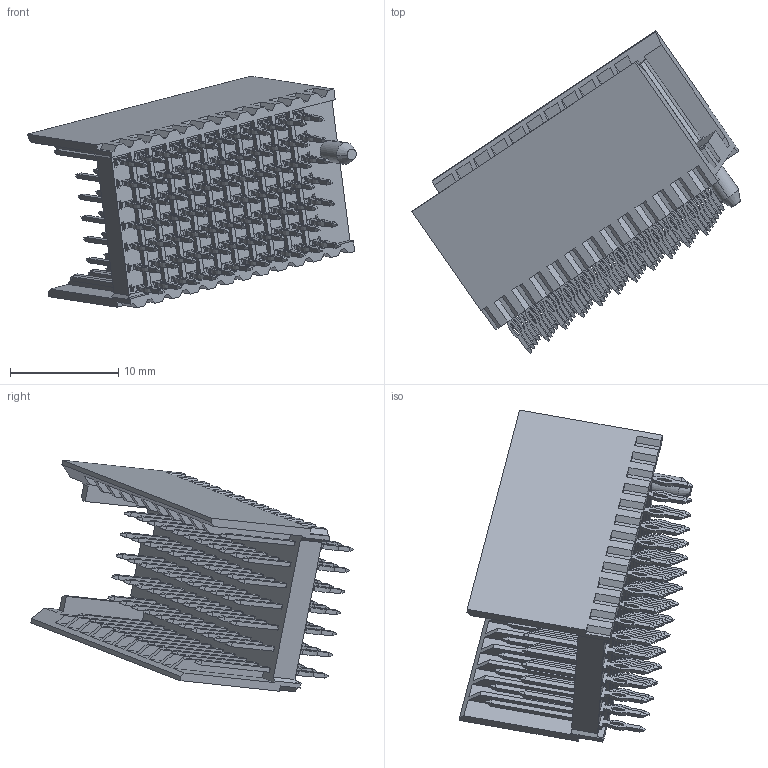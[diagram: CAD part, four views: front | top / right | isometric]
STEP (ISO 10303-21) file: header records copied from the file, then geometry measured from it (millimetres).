
FILE_DESCRIPTION (( 'STEP AP214' ), '1' );
FILE_NAME ('9111-71CL77CC10U.STEP', '2016-09-19T11:18:56', ( 'admin' ), ( '' ), 'SwSTEP 2.0', 'SolidWorks 2011', '' );
FILE_SCHEMA (( 'AUTOMOTIVE_DESIGN' ));
Length unit declared in the file: millimetre
Products named in the file (4): DUAN_Default; DUAN-CHANG_Default; 9111-71D77CC30U_Default; 9111-71CL77CC10U
Assembly tree (78 placements, depth 2):
  9111-71CL77CC10U
    DUAN-CHANG_Default  x22
    DUAN_Default  x55
    9111-71D77CC30U_Default
Bounding box: 30.32 x 29.75 x 21.37 mm (x, y, z)
Volume: 1677.8 mm3; surface area: 4372.6 mm2
Topology: 155 solids, 155 shells, 3287 faces, 8171 edges, 5214 vertices
Faces by surface type: plane 2436, cylinder 849, cone 2
Entity records: 16142 total; most frequent: CARTESIAN_POINT 2803, ORIENTED_EDGE 2692, DIRECTION 2584, EDGE_CURVE 1346, LINE 1294, VECTOR 1294, VERTEX_POINT 864, AXIS2_PLACEMENT_3D 645
